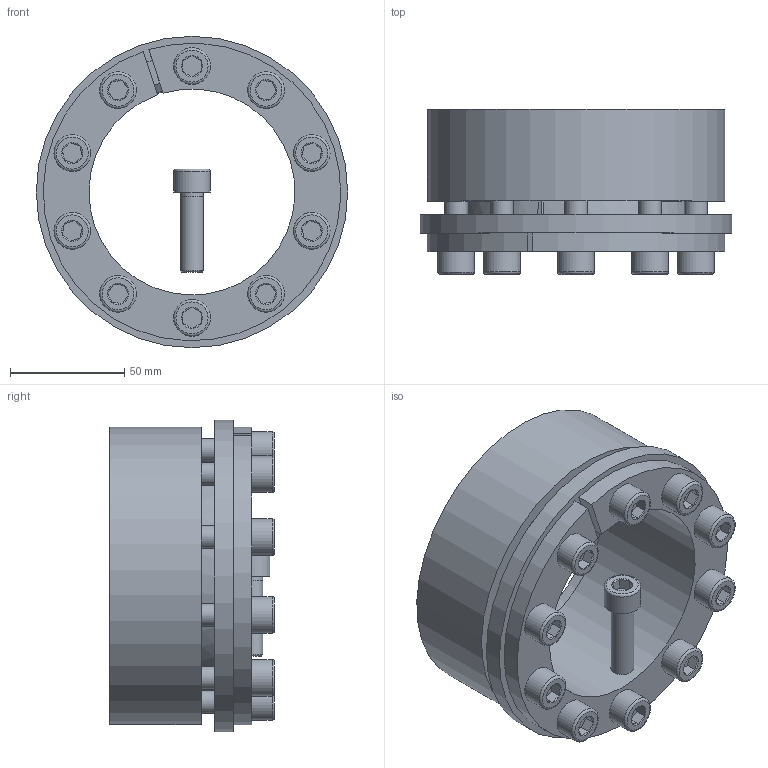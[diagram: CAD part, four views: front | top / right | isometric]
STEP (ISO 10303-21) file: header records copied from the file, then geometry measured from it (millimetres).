
FILE_DESCRIPTION( ( 'Unknown' ), '1' );
FILE_NAME( 'C:/Dokumente und Einstellungen/Sven/Desktop/homepage/cad - homepage/KBS71/KBS 71 - 90 x 130.stp', 'Unknown', ( 'Unknown' ), ( 'Unknown' ), 'XStep 1.0', 'Unknown', ' ' );
FILE_SCHEMA( ( 'automotive_design' ) );
Length unit declared in the file: millimetre
Products named in the file (3): Assem1; KBS 71 - 90 x 130; ISO EN DIN 4762 M10x35
Bounding box: 136 x 72 x 136 mm (x, y, z)
Volume: 764237.1 mm3; surface area: 196277.8 mm2
Topology: 13 solids, 13 shells, 363 faces, 781 edges, 466 vertices
Faces by surface type: plane 164, cylinder 92, cone 85, torus 22
Full cylindrical faces by diameter (mm): 9 x11, 10 x62, 16 x11, 136 x2
Entity records: 2510 total; most frequent: CARTESIAN_POINT 389, DIRECTION 384, ORIENTED_EDGE 292, AXIS2_PLACEMENT_3D 167, EDGE_CURVE 146, EDGE_LOOP 136, VERTEX_POINT 104, FACE_OUTER_BOUND 96
